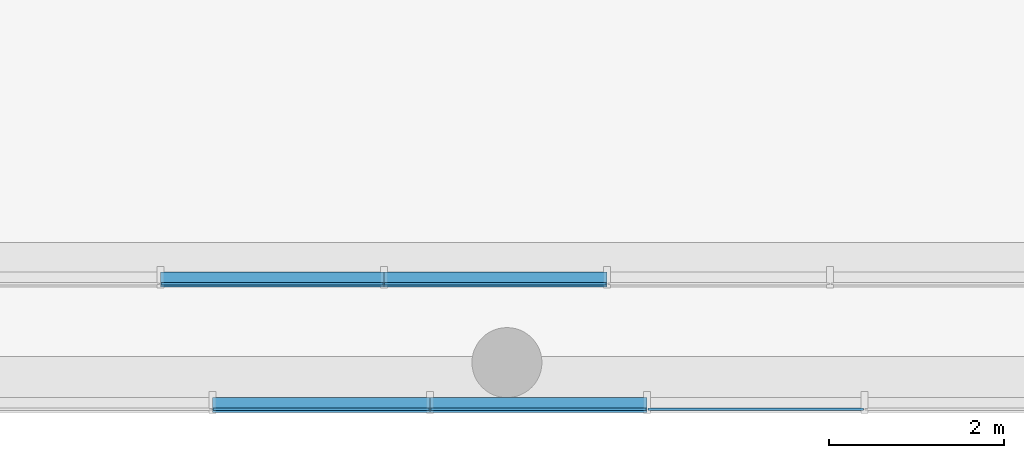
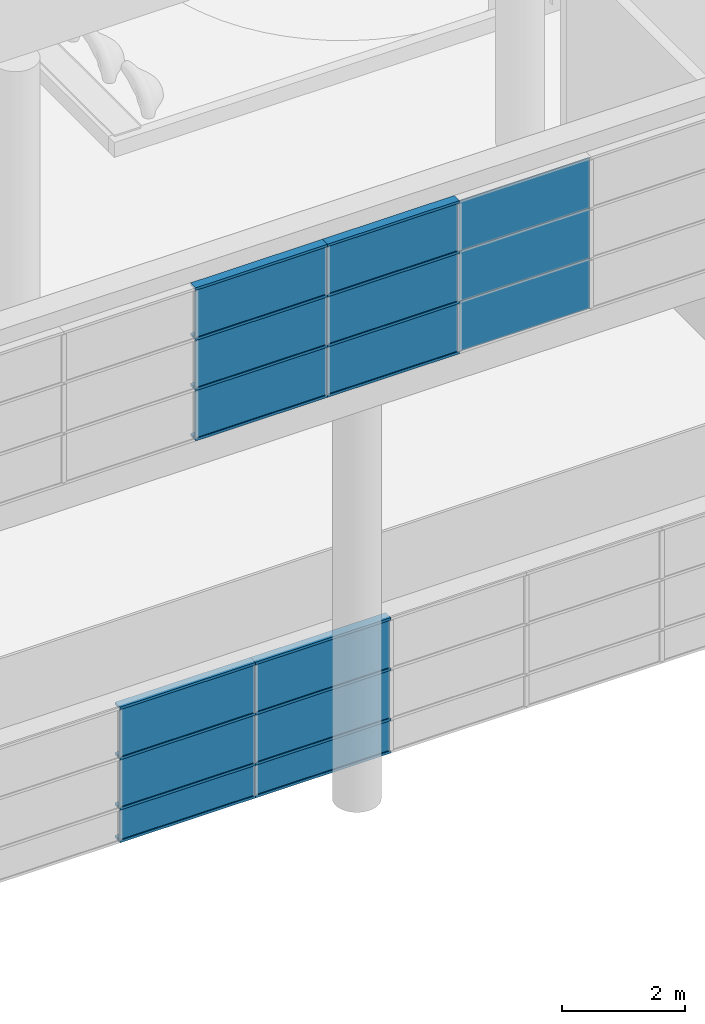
# One storey, part 22 of 105: 31 building element parts, 2 elements without a shape of their own.
"""IFC4 building model written with IfcOpenShell, lengths in millimetres."""

from ifc_helpers import new_model, entity, si_unit, converted_unit, derived_unit, direction, frame, origin_with_axes, place, context, subcontext, project, spatial, triangles, material, element, aggregate, save


model = new_model("IFC4")

# Units and contexts
model_context = context("Model", 3, precision=1e-05, world=origin_with_axes(), true_north=direction((0.0, 1.0)))
body_context = subcontext(model_context, "Body", "Model", "MODEL_VIEW")
ifc_project = project(units=[si_unit("LENGTHUNIT", "METRE", prefix="MILLI"), si_unit("AREAUNIT", "SQUARE_METRE"), si_unit("VOLUMEUNIT", "CUBIC_METRE"), converted_unit("PLANEANGLEUNIT", "DEGREE", entity("IfcLengthMeasure", 0.017453), si_unit("PLANEANGLEUNIT", "RADIAN"), dimensions=[0, 0, 0, 0, 0, 0, 0]), si_unit("SOLIDANGLEUNIT", "STERADIAN"), si_unit("MASSUNIT", "GRAM"), si_unit("TIMEUNIT", "SECOND"), si_unit("THERMODYNAMICTEMPERATUREUNIT", "DEGREE_CELSIUS"), si_unit("LUMINOUSINTENSITYUNIT", "LUMEN"), si_unit("POWERUNIT", "WATT"), derived_unit("THERMALTRANSMITTANCEUNIT", [(si_unit("POWERUNIT", "WATT"), 1), (si_unit("THERMODYNAMICTEMPERATUREUNIT", "KELVIN"), -1), (si_unit("AREAUNIT", "SQUARE_METRE"), -1)])], contexts=[model_context])

# Site, building, storey
site_placement = place(None, origin_with_axes())
site = spatial("IfcSite", under=ifc_project, at=site_placement, Name="Default Site", CompositionType="ELEMENT")
building_placement = place(site_placement, origin_with_axes())
building = spatial("IfcBuilding", under=site, at=building_placement, Name="Default Building", CompositionType="ELEMENT")
storey_placement = place(building_placement, origin_with_axes())
storey = spatial("IfcBuildingStorey", under=building, at=storey_placement, Name="OG - Story", CompositionType="ELEMENT", Elevation=0.0)

# Curtain wall, building element parts
curtain_wall_1_placement = place(storey_placement, origin_with_axes())
curtain_wall_1 = element("IfcCurtainWall", 1, at=curtain_wall_1_placement, inside=storey, Name="Fassade-001", PredefinedType="NOTDEFINED")
ifc_material_1 = material(Name="Normalglas")
building_element_part_1_placement = place(curtain_wall_1_placement, frame((52496.845873, -51289.262838, 0.0), z_axis=(0.0, 0.0, 1.0), x_axis=(1.0, 0.0, 0.0)))
building_element_part_1 = element("IfcBuildingElementPart", 2, at=building_element_part_1_placement, material=ifc_material_1, Name="Normalglas", PredefinedType="NOTDEFINED", context=body_context, shape_type="Tessellation", body=[
    triangles([(6367.273, 15.0, 645.0), (3836.364, 15.0, 645.0), (3836.364, -14.999, 645.0), (6367.273, -14.999, 645.0), (6367.273, 15.0, 5.0), (3836.364, 15.0, 5.0), (3836.364, -14.999, 5.0), (6367.273, -14.999, 5.0)], [[1, 2, 3], [1, 3, 4], [1, 5, 6], [1, 6, 2], [2, 6, 7], [2, 7, 3], [4, 3, 7], [4, 7, 8], [5, 1, 4], [5, 4, 8], [6, 5, 8], [6, 8, 7]], closed=False),
])
building_element_part_2_placement = place(curtain_wall_1_placement, frame((52496.845873, -51289.262838, 0.0), z_axis=(0.0, 0.0, 1.0), x_axis=(1.0, 0.0, 0.0)))
building_element_part_2 = element("IfcBuildingElementPart", 3, at=building_element_part_2_placement, material=ifc_material_1, Name="Normalglas", PredefinedType="NOTDEFINED", context=body_context, shape_type="Tessellation", body=[
    triangles([(8918.182, 15.0, 645.0), (6387.273, 15.0, 645.0), (6387.273, -14.999, 645.0), (8918.182, -14.999, 645.0), (8918.182, 15.0, 5.0), (6387.273, 15.0, 5.0), (6387.273, -14.999, 5.0), (8918.182, -14.999, 5.0)], [[1, 2, 3], [1, 3, 4], [1, 5, 6], [1, 6, 2], [2, 6, 7], [2, 7, 3], [4, 3, 7], [4, 7, 8], [5, 1, 4], [5, 4, 8], [6, 5, 8], [6, 8, 7]], closed=False),
])
building_element_part_3_placement = place(curtain_wall_1_placement, frame((52496.845873, -51289.262838, 0.0), z_axis=(0.0, 0.0, 1.0), x_axis=(1.0, 0.0, 0.0)))
building_element_part_3 = element("IfcBuildingElementPart", 4, at=building_element_part_3_placement, material=ifc_material_1, Name="Normalglas", PredefinedType="NOTDEFINED", context=body_context, shape_type="Tessellation", body=[
    triangles([(6367.273, 15.0, 1645.0), (3836.364, 15.0, 1645.0), (3836.364, -14.999, 1645.0), (6367.273, -14.999, 1645.0), (6367.273, 15.0, 655.0), (3836.364, 15.0, 655.0), (3836.364, -14.999, 655.0), (6367.273, -14.999, 655.0)], [[1, 2, 3], [1, 3, 4], [1, 5, 6], [1, 6, 2], [2, 6, 7], [2, 7, 3], [4, 3, 7], [4, 7, 8], [5, 1, 4], [5, 4, 8], [6, 5, 8], [6, 8, 7]], closed=False),
])
building_element_part_4_placement = place(curtain_wall_1_placement, frame((52496.845873, -51289.262838, 0.0), z_axis=(0.0, 0.0, 1.0), x_axis=(1.0, 0.0, 0.0)))
building_element_part_4 = element("IfcBuildingElementPart", 5, at=building_element_part_4_placement, material=ifc_material_1, Name="Normalglas", PredefinedType="NOTDEFINED", context=body_context, shape_type="Tessellation", body=[
    triangles([(8918.182, 15.0, 1645.0), (6387.273, 15.0, 1645.0), (6387.273, -14.999, 1645.0), (8918.182, -14.999, 1645.0), (8918.182, 15.0, 655.0), (6387.273, 15.0, 655.0), (6387.273, -14.999, 655.0), (8918.182, -14.999, 655.0)], [[1, 2, 3], [1, 3, 4], [1, 5, 6], [1, 6, 2], [2, 6, 7], [2, 7, 3], [4, 3, 7], [4, 7, 8], [5, 1, 4], [5, 4, 8], [6, 5, 8], [6, 8, 7]], closed=False),
])
building_element_part_5_placement = place(curtain_wall_1_placement, frame((52496.845873, -51289.262838, 0.0), z_axis=(0.0, 0.0, 1.0), x_axis=(1.0, 0.0, 0.0)))
building_element_part_5 = element("IfcBuildingElementPart", 6, at=building_element_part_5_placement, material=ifc_material_1, Name="Normalglas", PredefinedType="NOTDEFINED", context=body_context, shape_type="Tessellation", body=[
    triangles([(6367.273, 15.0, 2645.0), (3836.364, 15.0, 2645.0), (3836.364, -14.999, 2645.0), (6367.273, -14.999, 2645.0), (6367.273, 15.0, 1655.0), (3836.364, 15.0, 1655.0), (3836.364, -14.999, 1655.0), (6367.273, -14.999, 1655.0)], [[1, 2, 3], [1, 3, 4], [1, 5, 6], [1, 6, 2], [2, 6, 7], [2, 7, 3], [4, 3, 7], [4, 7, 8], [5, 1, 4], [5, 4, 8], [6, 5, 8], [6, 8, 7]], closed=False),
])
building_element_part_6_placement = place(curtain_wall_1_placement, frame((52496.845873, -51289.262838, 0.0), z_axis=(0.0, 0.0, 1.0), x_axis=(1.0, 0.0, 0.0)))
building_element_part_6 = element("IfcBuildingElementPart", 7, at=building_element_part_6_placement, material=ifc_material_1, Name="Normalglas", PredefinedType="NOTDEFINED", context=body_context, shape_type="Tessellation", body=[
    triangles([(8918.182, 15.0, 2645.0), (6387.273, 15.0, 2645.0), (6387.273, -14.999, 2645.0), (8918.182, -14.999, 2645.0), (8918.182, 15.0, 1655.0), (6387.273, 15.0, 1655.0), (6387.273, -14.999, 1655.0), (8918.182, -14.999, 1655.0)], [[1, 2, 3], [1, 3, 4], [1, 5, 6], [1, 6, 2], [2, 6, 7], [2, 7, 3], [4, 3, 7], [4, 7, 8], [5, 1, 4], [5, 4, 8], [6, 5, 8], [6, 8, 7]], closed=False),
])
ifc_material_2 = material(Name="Blech")
building_element_part_7_placement = place(curtain_wall_1_placement, frame((52496.845873, -51289.262838, 0.0), z_axis=(0.0, 0.0, 1.0), x_axis=(1.0, 0.0, 0.0)))
building_element_part_7 = element("IfcBuildingElementPart", 8, at=building_element_part_7_placement, material=ifc_material_2, Name="Blech", PredefinedType="NOTDEFINED", context=body_context, shape_type="Tessellation", body=[
    triangles([(6377.273, 15.0, 25.0), (6377.273, 133.0, 25.0), (6377.273, 15.0, 5.0), (6377.273, 133.0, -24.999), (6377.273, -14.999, 5.0), (6377.273, -34.999, -24.999), (6377.273, -14.999, 25.0), (6377.273, -34.999, 25.0), (3826.364, 15.0, 5.0), (3826.364, -14.999, 5.0), (3826.364, -14.999, 25.0), (3826.364, -34.999, 25.0), (3826.364, -34.999, -24.999), (3826.364, 133.0, -24.999), (3826.364, 133.0, 25.0), (3826.364, 15.0, 25.0)], [[1, 2, 3], [3, 2, 4], [3, 4, 5], [5, 4, 6], [5, 6, 7], [7, 6, 8], [5, 3, 9], [5, 9, 10], [11, 7, 5], [11, 5, 10], [7, 11, 12], [7, 12, 8], [13, 6, 8], [13, 8, 12], [14, 4, 6], [14, 6, 13], [15, 2, 4], [15, 4, 14], [16, 1, 2], [16, 2, 15], [3, 1, 16], [3, 16, 9], [16, 15, 9], [9, 15, 14], [9, 14, 10], [10, 14, 13], [10, 13, 11], [11, 13, 12]], closed=False),
])
building_element_part_8_placement = place(curtain_wall_1_placement, frame((52496.845873, -51289.262838, 0.0), z_axis=(0.0, 0.0, 1.0), x_axis=(1.0, 0.0, 0.0)))
building_element_part_8 = element("IfcBuildingElementPart", 9, at=building_element_part_8_placement, material=ifc_material_2, Name="Blech", PredefinedType="NOTDEFINED", context=body_context, shape_type="Tessellation", body=[
    triangles([(8928.182, 15.0, 25.0), (8928.182, 133.0, 25.0), (8928.182, 15.0, 5.0), (8928.182, 133.0, -24.999), (8928.182, -14.999, 5.0), (8928.182, -34.999, -24.999), (8928.182, -14.999, 25.0), (8928.182, -34.999, 25.0), (6377.273, 15.0, 5.0), (6377.273, -14.999, 5.0), (6377.273, -14.999, 25.0), (6377.273, -34.999, 25.0), (6377.273, -34.999, -24.999), (6377.273, 133.0, -24.999), (6377.273, 133.0, 25.0), (6377.273, 15.0, 25.0)], [[1, 2, 3], [3, 2, 4], [3, 4, 5], [5, 4, 6], [5, 6, 7], [7, 6, 8], [5, 3, 9], [5, 9, 10], [11, 7, 5], [11, 5, 10], [7, 11, 12], [7, 12, 8], [13, 6, 8], [13, 8, 12], [14, 4, 6], [14, 6, 13], [15, 2, 4], [15, 4, 14], [16, 1, 2], [16, 2, 15], [3, 1, 16], [3, 16, 9], [16, 15, 9], [9, 15, 14], [9, 14, 10], [10, 14, 13], [10, 13, 11], [11, 13, 12]], closed=False),
])
building_element_part_9_placement = place(curtain_wall_1_placement, frame((52496.845873, -51289.262838, 0.0), z_axis=(0.0, 0.0, 1.0), x_axis=(1.0, 0.0, 0.0)))
building_element_part_9 = element("IfcBuildingElementPart", 10, at=building_element_part_9_placement, material=ifc_material_2, Name="Blech", PredefinedType="NOTDEFINED", context=body_context, shape_type="Tessellation", body=[
    triangles([(6377.273, 133.0, 675.0), (6377.273, 15.0, 675.0), (6377.273, 133.0, 625.0), (6377.273, 15.0, 655.0), (6377.273, 15.0, 645.0), (6377.273, -14.999, 655.0), (6377.273, -14.999, 645.0), (6377.273, -14.999, 625.0), (6377.273, -14.999, 675.0), (6377.273, -34.999, 675.0), (6377.273, -34.999, 625.0), (6377.273, 15.0, 625.0), (3826.364, 15.0, 645.0), (3826.364, 15.0, 625.0), (3826.364, 133.0, 625.0), (3826.364, 133.0, 675.0), (3826.364, 15.0, 675.0), (3826.364, 15.0, 655.0), (3826.364, -14.999, 655.0), (3826.364, -14.999, 675.0), (3826.364, -34.999, 675.0), (3826.364, -34.999, 625.0), (3826.364, -14.999, 625.0), (3826.364, -14.999, 645.0)], [[1, 2, 3], [3, 2, 4], [3, 4, 5], [5, 4, 6], [5, 6, 7], [8, 9, 10], [8, 10, 11], [3, 5, 12], [12, 5, 13], [12, 13, 14], [12, 14, 15], [12, 15, 3], [1, 3, 15], [1, 15, 16], [2, 1, 16], [2, 16, 17], [2, 17, 18], [2, 18, 4], [4, 18, 19], [4, 19, 6], [9, 6, 19], [9, 19, 20], [20, 21, 10], [20, 10, 9], [11, 10, 21], [11, 21, 22], [23, 8, 11], [23, 11, 22], [7, 8, 23], [7, 23, 24], [5, 7, 24], [5, 24, 13], [15, 14, 16], [16, 14, 13], [16, 13, 18], [18, 13, 24], [18, 24, 19], [20, 23, 22], [20, 22, 21], [16, 18, 17]], closed=False),
])
building_element_part_10_placement = place(curtain_wall_1_placement, frame((52496.845873, -51289.262838, 0.0), z_axis=(0.0, 0.0, 1.0), x_axis=(1.0, 0.0, 0.0)))
building_element_part_10 = element("IfcBuildingElementPart", 11, at=building_element_part_10_placement, material=ifc_material_2, Name="Blech", PredefinedType="NOTDEFINED", context=body_context, shape_type="Tessellation", body=[
    triangles([(8928.182, 133.0, 675.0), (8928.182, 15.0, 675.0), (8928.182, 133.0, 625.0), (8928.182, 15.0, 655.0), (8928.182, 15.0, 645.0), (8928.182, -14.999, 655.0), (8928.182, -14.999, 645.0), (8928.182, -14.999, 625.0), (8928.182, -14.999, 675.0), (8928.182, -34.999, 675.0), (8928.182, -34.999, 625.0), (8928.182, 15.0, 625.0), (6377.273, 15.0, 645.0), (6377.273, 15.0, 625.0), (6377.273, 133.0, 625.0), (6377.273, 133.0, 675.0), (6377.273, 15.0, 675.0), (6377.273, 15.0, 655.0), (6377.273, -14.999, 655.0), (6377.273, -14.999, 675.0), (6377.273, -34.999, 675.0), (6377.273, -34.999, 625.0), (6377.273, -14.999, 625.0), (6377.273, -14.999, 645.0)], [[1, 2, 3], [3, 2, 4], [3, 4, 5], [5, 4, 6], [5, 6, 7], [8, 9, 10], [8, 10, 11], [3, 5, 12], [12, 5, 13], [12, 13, 14], [12, 14, 15], [12, 15, 3], [1, 3, 15], [1, 15, 16], [2, 1, 16], [2, 16, 17], [2, 17, 18], [2, 18, 4], [4, 18, 19], [4, 19, 6], [9, 6, 19], [9, 19, 20], [20, 21, 10], [20, 10, 9], [11, 10, 21], [11, 21, 22], [23, 8, 11], [23, 11, 22], [7, 8, 23], [7, 23, 24], [5, 7, 24], [5, 24, 13], [15, 14, 16], [16, 14, 13], [16, 13, 18], [18, 13, 24], [18, 24, 19], [20, 23, 22], [20, 22, 21], [16, 18, 17]], closed=False),
])
building_element_part_11_placement = place(curtain_wall_1_placement, frame((52496.845873, -51289.262838, 0.0), z_axis=(0.0, 0.0, 1.0), x_axis=(1.0, 0.0, 0.0)))
building_element_part_11 = element("IfcBuildingElementPart", 12, at=building_element_part_11_placement, material=ifc_material_2, Name="Blech", PredefinedType="NOTDEFINED", context=body_context, shape_type="Tessellation", body=[
    triangles([(6377.273, 133.0, 1675.0), (6377.273, 15.0, 1675.0), (6377.273, 133.0, 1625.0), (6377.273, 15.0, 1655.0), (6377.273, 15.0, 1645.0), (6377.273, -14.999, 1655.0), (6377.273, -14.999, 1645.0), (6377.273, -14.999, 1625.0), (6377.273, -14.999, 1675.0), (6377.273, -34.999, 1675.0), (6377.273, -34.999, 1625.0), (6377.273, 15.0, 1625.0), (3826.364, 15.0, 1645.0), (3826.364, 15.0, 1625.0), (3826.364, 133.0, 1625.0), (3826.364, 133.0, 1675.0), (3826.364, 15.0, 1675.0), (3826.364, 15.0, 1655.0), (3826.364, -14.999, 1655.0), (3826.364, -14.999, 1675.0), (3826.364, -34.999, 1675.0), (3826.364, -34.999, 1625.0), (3826.364, -14.999, 1625.0), (3826.364, -14.999, 1645.0)], [[1, 2, 3], [3, 2, 4], [3, 4, 5], [5, 4, 6], [5, 6, 7], [8, 9, 10], [8, 10, 11], [3, 5, 12], [12, 5, 13], [12, 13, 14], [12, 14, 15], [12, 15, 3], [1, 3, 15], [1, 15, 16], [2, 1, 16], [2, 16, 17], [2, 17, 18], [2, 18, 4], [4, 18, 19], [4, 19, 6], [9, 6, 19], [9, 19, 20], [20, 21, 10], [20, 10, 9], [11, 10, 21], [11, 21, 22], [23, 8, 11], [23, 11, 22], [7, 8, 23], [7, 23, 24], [5, 7, 24], [5, 24, 13], [15, 14, 16], [16, 14, 13], [16, 13, 18], [18, 13, 24], [18, 24, 19], [20, 23, 22], [20, 22, 21], [16, 18, 17]], closed=False),
])
building_element_part_12_placement = place(curtain_wall_1_placement, frame((52496.845873, -51289.262838, 0.0), z_axis=(0.0, 0.0, 1.0), x_axis=(1.0, 0.0, 0.0)))
building_element_part_12 = element("IfcBuildingElementPart", 13, at=building_element_part_12_placement, material=ifc_material_2, Name="Blech", PredefinedType="NOTDEFINED", context=body_context, shape_type="Tessellation", body=[
    triangles([(6377.273, 15.0, 2625.0), (6377.273, 133.0, 2625.0), (6377.273, 15.0, 2645.0), (6377.273, 133.0, 2675.0), (6377.273, -14.999, 2645.0), (6377.273, -34.999, 2675.0), (6377.273, -14.999, 2625.0), (6377.273, -34.999, 2625.0), (3826.364, 15.0, 2645.0), (3826.364, 15.0, 2625.0), (3826.364, 133.0, 2625.0), (3826.364, 133.0, 2675.0), (3826.364, -34.999, 2675.0), (3826.364, -34.999, 2625.0), (3826.364, -14.999, 2625.0), (3826.364, -14.999, 2645.0)], [[1, 2, 3], [3, 2, 4], [3, 4, 5], [5, 4, 6], [5, 6, 7], [7, 6, 8], [3, 9, 10], [3, 10, 1], [10, 11, 2], [10, 2, 1], [11, 12, 4], [11, 4, 2], [12, 13, 6], [12, 6, 4], [13, 14, 8], [13, 8, 6], [7, 8, 14], [7, 14, 15], [15, 16, 5], [15, 5, 7], [5, 16, 9], [5, 9, 3], [10, 11, 9], [9, 11, 12], [9, 12, 16], [16, 12, 13], [16, 13, 15], [15, 13, 14]], closed=False),
])
building_element_part_13_placement = place(curtain_wall_1_placement, frame((52496.845873, -51289.262838, 0.0), z_axis=(0.0, 0.0, 1.0), x_axis=(1.0, 0.0, 0.0)))
building_element_part_13 = element("IfcBuildingElementPart", 14, at=building_element_part_13_placement, material=ifc_material_2, Name="Blech", PredefinedType="NOTDEFINED", context=body_context, shape_type="Tessellation", body=[
    triangles([(8928.182, 133.0, 1675.0), (8928.182, 15.0, 1675.0), (8928.182, 133.0, 1625.0), (8928.182, 15.0, 1655.0), (8928.182, 15.0, 1645.0), (8928.182, -14.999, 1655.0), (8928.182, -14.999, 1645.0), (8928.182, -14.999, 1625.0), (8928.182, -14.999, 1675.0), (8928.182, -34.999, 1675.0), (8928.182, -34.999, 1625.0), (8928.182, 15.0, 1625.0), (6377.273, 15.0, 1645.0), (6377.273, 15.0, 1625.0), (6377.273, 133.0, 1625.0), (6377.273, 133.0, 1675.0), (6377.273, 15.0, 1675.0), (6377.273, 15.0, 1655.0), (6377.273, -14.999, 1655.0), (6377.273, -14.999, 1675.0), (6377.273, -34.999, 1675.0), (6377.273, -34.999, 1625.0), (6377.273, -14.999, 1625.0), (6377.273, -14.999, 1645.0)], [[1, 2, 3], [3, 2, 4], [3, 4, 5], [5, 4, 6], [5, 6, 7], [8, 9, 10], [8, 10, 11], [3, 5, 12], [12, 5, 13], [12, 13, 14], [12, 14, 15], [12, 15, 3], [1, 3, 15], [1, 15, 16], [2, 1, 16], [2, 16, 17], [2, 17, 18], [2, 18, 4], [4, 18, 19], [4, 19, 6], [9, 6, 19], [9, 19, 20], [20, 21, 10], [20, 10, 9], [11, 10, 21], [11, 21, 22], [23, 8, 11], [23, 11, 22], [7, 8, 23], [7, 23, 24], [5, 7, 24], [5, 24, 13], [15, 14, 16], [16, 14, 13], [16, 13, 18], [18, 13, 24], [18, 24, 19], [20, 23, 22], [20, 22, 21], [16, 18, 17]], closed=False),
])
building_element_part_14_placement = place(curtain_wall_1_placement, frame((52496.845873, -51289.262838, 0.0), z_axis=(0.0, 0.0, 1.0), x_axis=(1.0, 0.0, 0.0)))
building_element_part_14 = element("IfcBuildingElementPart", 15, at=building_element_part_14_placement, material=ifc_material_2, Name="Blech", PredefinedType="NOTDEFINED", context=body_context, shape_type="Tessellation", body=[
    triangles([(8928.182, 15.0, 2625.0), (8928.182, 133.0, 2625.0), (8928.182, 15.0, 2645.0), (8928.182, 133.0, 2675.0), (8928.182, -14.999, 2645.0), (8928.182, -34.999, 2675.0), (8928.182, -14.999, 2625.0), (8928.182, -34.999, 2625.0), (6377.273, 15.0, 2645.0), (6377.273, 15.0, 2625.0), (6377.273, 133.0, 2625.0), (6377.273, 133.0, 2675.0), (6377.273, -34.999, 2675.0), (6377.273, -34.999, 2625.0), (6377.273, -14.999, 2625.0), (6377.273, -14.999, 2645.0)], [[1, 2, 3], [3, 2, 4], [3, 4, 5], [5, 4, 6], [5, 6, 7], [7, 6, 8], [3, 9, 10], [3, 10, 1], [10, 11, 2], [10, 2, 1], [11, 12, 4], [11, 4, 2], [12, 13, 6], [12, 6, 4], [13, 14, 8], [13, 8, 6], [7, 8, 14], [7, 14, 15], [15, 16, 5], [15, 5, 7], [5, 16, 9], [5, 9, 3], [10, 11, 9], [9, 11, 12], [9, 12, 16], [16, 12, 13], [16, 13, 15], [15, 13, 14]], closed=False),
])
aggregate(curtain_wall_1, [building_element_part_1, building_element_part_2, building_element_part_3, building_element_part_4, building_element_part_5, building_element_part_6, building_element_part_7, building_element_part_8, building_element_part_9, building_element_part_10, building_element_part_11, building_element_part_12, building_element_part_13, building_element_part_14])

curtain_wall_2_placement = place(storey_placement, origin_with_axes())
curtain_wall_2 = element("IfcCurtainWall", 16, at=curtain_wall_2_placement, inside=storey, Name="Fassade-002", PredefinedType="NOTDEFINED")
building_element_part_15_placement = place(curtain_wall_2_placement, frame((33339.077852, -52722.262838, 8660.317768), z_axis=(0.0, 0.0, 1.0), x_axis=(1.0, 0.0, 0.0)))
building_element_part_15 = element("IfcBuildingElementPart", 17, at=building_element_part_15_placement, material=ifc_material_1, Name="Normalglas", PredefinedType="NOTDEFINED", context=body_context, shape_type="Tessellation", body=[
    triangles([(26051.975, 15.0, 995.0), (23589.882, 15.0, 995.0), (23589.882, -14.999, 995.0), (26051.975, -14.999, 995.0), (26051.975, 15.0, 5.0), (23589.882, 15.0, 5.0), (23589.882, -14.999, 5.0), (26051.975, -14.999, 5.0)], [[1, 2, 3], [1, 3, 4], [1, 5, 6], [1, 6, 2], [2, 6, 7], [2, 7, 3], [4, 3, 7], [4, 7, 8], [5, 1, 4], [5, 4, 8], [6, 5, 8], [6, 8, 7]], closed=False),
])
building_element_part_16_placement = place(curtain_wall_2_placement, frame((33339.077852, -52722.262838, 8660.317768), z_axis=(0.0, 0.0, 1.0), x_axis=(1.0, 0.0, 0.0)))
building_element_part_16 = element("IfcBuildingElementPart", 18, at=building_element_part_16_placement, material=ifc_material_1, Name="Normalglas", PredefinedType="NOTDEFINED", context=body_context, shape_type="Tessellation", body=[
    triangles([(26051.975, 15.0, 1995.0), (23589.882, 15.0, 1995.0), (23589.882, -14.999, 1995.0), (26051.975, -14.999, 1995.0), (26051.975, 15.0, 1005.0), (23589.882, 15.0, 1005.0), (23589.882, -14.999, 1005.0), (26051.975, -14.999, 1005.0)], [[1, 2, 3], [1, 3, 4], [1, 5, 6], [1, 6, 2], [2, 6, 7], [2, 7, 3], [4, 3, 7], [4, 7, 8], [5, 1, 4], [5, 4, 8], [6, 5, 8], [6, 8, 7]], closed=False),
])
building_element_part_17_placement = place(curtain_wall_2_placement, frame((33339.077852, -52722.262838, 8660.317768), z_axis=(0.0, 0.0, 1.0), x_axis=(1.0, 0.0, 0.0)))
building_element_part_17 = element("IfcBuildingElementPart", 19, at=building_element_part_17_placement, material=ifc_material_1, Name="Normalglas", PredefinedType="NOTDEFINED", context=body_context, shape_type="Tessellation", body=[
    triangles([(26051.975, 15.0, 2995.0), (23589.882, 15.0, 2995.0), (23589.882, -14.999, 2995.0), (26051.975, -14.999, 2995.0), (26051.975, 15.0, 2005.0), (23589.882, 15.0, 2005.0), (23589.882, -14.999, 2005.0), (26051.975, -14.999, 2005.0)], [[1, 2, 3], [1, 3, 4], [1, 5, 6], [1, 6, 2], [2, 6, 7], [2, 7, 3], [4, 3, 7], [4, 7, 8], [5, 1, 4], [5, 4, 8], [6, 5, 8], [6, 8, 7]], closed=False),
])
building_element_part_18_placement = place(curtain_wall_2_placement, frame((33339.077852, -52722.262838, 8660.317768), z_axis=(0.0, 0.0, 1.0), x_axis=(1.0, 0.0, 0.0)))
building_element_part_18 = element("IfcBuildingElementPart", 20, at=building_element_part_18_placement, material=ifc_material_1, Name="Normalglas", PredefinedType="NOTDEFINED", context=body_context, shape_type="Tessellation", body=[
    triangles([(28534.068, 15.0, 995.0), (26071.975, 15.0, 995.0), (26071.975, -14.999, 995.0), (28534.068, -14.999, 995.0), (28534.068, 15.0, 5.0), (26071.975, 15.0, 5.0), (26071.975, -14.999, 5.0), (28534.068, -14.999, 5.0)], [[1, 2, 3], [1, 3, 4], [1, 5, 6], [1, 6, 2], [2, 6, 7], [2, 7, 3], [4, 3, 7], [4, 7, 8], [5, 1, 4], [5, 4, 8], [6, 5, 8], [6, 8, 7]], closed=False),
])
building_element_part_19_placement = place(curtain_wall_2_placement, frame((33339.077852, -52722.262838, 8660.317768), z_axis=(0.0, 0.0, 1.0), x_axis=(1.0, 0.0, 0.0)))
building_element_part_19 = element("IfcBuildingElementPart", 21, at=building_element_part_19_placement, material=ifc_material_1, Name="Normalglas", PredefinedType="NOTDEFINED", context=body_context, shape_type="Tessellation", body=[
    triangles([(28534.068, 15.0, 1995.0), (26071.975, 15.0, 1995.0), (26071.975, -14.999, 1995.0), (28534.068, -14.999, 1995.0), (28534.068, 15.0, 1005.0), (26071.975, 15.0, 1005.0), (26071.975, -14.999, 1005.0), (28534.068, -14.999, 1005.0)], [[1, 2, 3], [1, 3, 4], [1, 5, 6], [1, 6, 2], [2, 6, 7], [2, 7, 3], [4, 3, 7], [4, 7, 8], [5, 1, 4], [5, 4, 8], [6, 5, 8], [6, 8, 7]], closed=False),
])
building_element_part_20_placement = place(curtain_wall_2_placement, frame((33339.077852, -52722.262838, 8660.317768), z_axis=(0.0, 0.0, 1.0), x_axis=(1.0, 0.0, 0.0)))
building_element_part_20 = element("IfcBuildingElementPart", 22, at=building_element_part_20_placement, material=ifc_material_1, Name="Normalglas", PredefinedType="NOTDEFINED", context=body_context, shape_type="Tessellation", body=[
    triangles([(28534.068, 15.0, 2995.0), (26071.975, 15.0, 2995.0), (26071.975, -14.999, 2995.0), (28534.068, -14.999, 2995.0), (28534.068, 15.0, 2005.0), (26071.975, 15.0, 2005.0), (26071.975, -14.999, 2005.0), (28534.068, -14.999, 2005.0)], [[1, 2, 3], [1, 3, 4], [1, 5, 6], [1, 6, 2], [2, 6, 7], [2, 7, 3], [4, 3, 7], [4, 7, 8], [5, 1, 4], [5, 4, 8], [6, 5, 8], [6, 8, 7]], closed=False),
])
building_element_part_21_placement = place(curtain_wall_2_placement, frame((33339.077852, -52722.262838, 8660.317768), z_axis=(0.0, 0.0, 1.0), x_axis=(1.0, 0.0, 0.0)))
building_element_part_21 = element("IfcBuildingElementPart", 23, at=building_element_part_21_placement, material=ifc_material_1, Name="Normalglas", PredefinedType="NOTDEFINED", context=body_context, shape_type="Tessellation", body=[
    triangles([(31016.161, 15.0, 995.0), (28554.068, 15.0, 995.0), (28554.068, -14.999, 995.0), (31016.161, -14.999, 995.0), (31016.161, 15.0, 5.0), (28554.068, 15.0, 5.0), (28554.068, -14.999, 5.0), (31016.161, -14.999, 5.0)], [[1, 2, 3], [1, 3, 4], [1, 5, 6], [1, 6, 2], [2, 6, 7], [2, 7, 3], [4, 3, 7], [4, 7, 8], [5, 1, 4], [5, 4, 8], [6, 5, 8], [6, 8, 7]], closed=False),
])
building_element_part_22_placement = place(curtain_wall_2_placement, frame((33339.077852, -52722.262838, 8660.317768), z_axis=(0.0, 0.0, 1.0), x_axis=(1.0, 0.0, 0.0)))
building_element_part_22 = element("IfcBuildingElementPart", 24, at=building_element_part_22_placement, material=ifc_material_1, Name="Normalglas", PredefinedType="NOTDEFINED", context=body_context, shape_type="Tessellation", body=[
    triangles([(31016.161, 15.0, 1995.0), (28554.068, 15.0, 1995.0), (28554.068, -14.999, 1995.0), (31016.161, -14.999, 1995.0), (31016.161, 15.0, 1005.0), (28554.068, 15.0, 1005.0), (28554.068, -14.999, 1005.0), (31016.161, -14.999, 1005.0)], [[1, 2, 3], [1, 3, 4], [1, 5, 6], [1, 6, 2], [2, 6, 7], [2, 7, 3], [4, 3, 7], [4, 7, 8], [5, 1, 4], [5, 4, 8], [6, 5, 8], [6, 8, 7]], closed=False),
])
building_element_part_23_placement = place(curtain_wall_2_placement, frame((33339.077852, -52722.262838, 8660.317768), z_axis=(0.0, 0.0, 1.0), x_axis=(1.0, 0.0, 0.0)))
building_element_part_23 = element("IfcBuildingElementPart", 25, at=building_element_part_23_placement, material=ifc_material_1, Name="Normalglas", PredefinedType="NOTDEFINED", context=body_context, shape_type="Tessellation", body=[
    triangles([(31016.161, 15.0, 2995.0), (28554.068, 15.0, 2995.0), (28554.068, -14.999, 2995.0), (31016.161, -14.999, 2995.0), (31016.161, 15.0, 2005.0), (28554.068, 15.0, 2005.0), (28554.068, -14.999, 2005.0), (31016.161, -14.999, 2005.0)], [[1, 2, 3], [1, 3, 4], [1, 5, 6], [1, 6, 2], [2, 6, 7], [2, 7, 3], [4, 3, 7], [4, 7, 8], [5, 1, 4], [5, 4, 8], [6, 5, 8], [6, 8, 7]], closed=False),
])
building_element_part_24_placement = place(curtain_wall_2_placement, frame((33339.077852, -52722.262838, 8660.317768), z_axis=(0.0, 0.0, 1.0), x_axis=(1.0, 0.0, 0.0)))
building_element_part_24 = element("IfcBuildingElementPart", 26, at=building_element_part_24_placement, material=ifc_material_2, Name="Blech", PredefinedType="NOTDEFINED", context=body_context, shape_type="Tessellation", body=[
    triangles([(26061.975, 15.0, 25.0), (26061.975, 133.0, 25.0), (26061.975, 15.0, 5.0), (26061.975, 133.0, -24.999), (26061.975, -14.999, 5.0), (26061.975, -34.999, -24.999), (26061.975, -14.999, 25.0), (26061.975, -34.999, 25.0), (23579.882, 15.0, 5.0), (23579.882, -14.999, 5.0), (23579.882, -14.999, 25.0), (23579.882, -34.999, 25.0), (23579.882, -34.999, -24.999), (23579.882, 133.0, -24.999), (23579.882, 133.0, 25.0), (23579.882, 15.0, 25.0)], [[1, 2, 3], [3, 2, 4], [3, 4, 5], [5, 4, 6], [5, 6, 7], [7, 6, 8], [5, 3, 9], [5, 9, 10], [11, 7, 5], [11, 5, 10], [7, 11, 12], [7, 12, 8], [13, 6, 8], [13, 8, 12], [14, 4, 6], [14, 6, 13], [15, 2, 4], [15, 4, 14], [16, 1, 2], [16, 2, 15], [3, 1, 16], [3, 16, 9], [16, 15, 9], [9, 15, 14], [9, 14, 10], [10, 14, 13], [10, 13, 11], [11, 13, 12]], closed=False),
])
building_element_part_25_placement = place(curtain_wall_2_placement, frame((33339.077852, -52722.262838, 8660.317768), z_axis=(0.0, 0.0, 1.0), x_axis=(1.0, 0.0, 0.0)))
building_element_part_25 = element("IfcBuildingElementPart", 27, at=building_element_part_25_placement, material=ifc_material_2, Name="Blech", PredefinedType="NOTDEFINED", context=body_context, shape_type="Tessellation", body=[
    triangles([(28544.068, 15.0, 25.0), (28544.068, 133.0, 25.0), (28544.068, 15.0, 5.0), (28544.068, 133.0, -24.999), (28544.068, -14.999, 5.0), (28544.068, -34.999, -24.999), (28544.068, -14.999, 25.0), (28544.068, -34.999, 25.0), (26061.975, 15.0, 5.0), (26061.975, -14.999, 5.0), (26061.975, -14.999, 25.0), (26061.975, -34.999, 25.0), (26061.975, -34.999, -24.999), (26061.975, 133.0, -24.999), (26061.975, 133.0, 25.0), (26061.975, 15.0, 25.0)], [[1, 2, 3], [3, 2, 4], [3, 4, 5], [5, 4, 6], [5, 6, 7], [7, 6, 8], [5, 3, 9], [5, 9, 10], [11, 7, 5], [11, 5, 10], [7, 11, 12], [7, 12, 8], [13, 6, 8], [13, 8, 12], [14, 4, 6], [14, 6, 13], [15, 2, 4], [15, 4, 14], [16, 1, 2], [16, 2, 15], [3, 1, 16], [3, 16, 9], [16, 15, 9], [9, 15, 14], [9, 14, 10], [10, 14, 13], [10, 13, 11], [11, 13, 12]], closed=False),
])
building_element_part_26_placement = place(curtain_wall_2_placement, frame((33339.077852, -52722.262838, 8660.317768), z_axis=(0.0, 0.0, 1.0), x_axis=(1.0, 0.0, 0.0)))
building_element_part_26 = element("IfcBuildingElementPart", 28, at=building_element_part_26_placement, material=ifc_material_2, Name="Blech", PredefinedType="NOTDEFINED", context=body_context, shape_type="Tessellation", body=[
    triangles([(26061.975, 133.0, 1025.0), (26061.975, 15.0, 1025.0), (26061.975, 133.0, 975.0), (26061.975, 15.0, 1005.0), (26061.975, 15.0, 995.0), (26061.975, -14.999, 1005.0), (26061.975, -14.999, 995.0), (26061.975, -14.999, 975.0), (26061.975, -14.999, 1025.0), (26061.975, -34.999, 1025.0), (26061.975, -34.999, 975.0), (26061.975, 15.0, 975.0), (23579.882, 15.0, 995.0), (23579.882, 15.0, 975.0), (23579.882, 133.0, 975.0), (23579.882, 133.0, 1025.0), (23579.882, 15.0, 1025.0), (23579.882, 15.0, 1005.0), (23579.882, -14.999, 1005.0), (23579.882, -14.999, 1025.0), (23579.882, -34.999, 1025.0), (23579.882, -34.999, 975.0), (23579.882, -14.999, 975.0), (23579.882, -14.999, 995.0)], [[1, 2, 3], [3, 2, 4], [3, 4, 5], [5, 4, 6], [5, 6, 7], [8, 9, 10], [8, 10, 11], [3, 5, 12], [12, 5, 13], [12, 13, 14], [12, 14, 15], [12, 15, 3], [1, 3, 15], [1, 15, 16], [2, 1, 16], [2, 16, 17], [2, 17, 18], [2, 18, 4], [4, 18, 19], [4, 19, 6], [9, 6, 19], [9, 19, 20], [20, 21, 10], [20, 10, 9], [11, 10, 21], [11, 21, 22], [23, 8, 11], [23, 11, 22], [7, 8, 23], [7, 23, 24], [5, 7, 24], [5, 24, 13], [15, 14, 16], [16, 14, 13], [16, 13, 18], [18, 13, 24], [18, 24, 19], [20, 23, 22], [20, 22, 21], [16, 18, 17]], closed=False),
])
building_element_part_27_placement = place(curtain_wall_2_placement, frame((33339.077852, -52722.262838, 8660.317768), z_axis=(0.0, 0.0, 1.0), x_axis=(1.0, 0.0, 0.0)))
building_element_part_27 = element("IfcBuildingElementPart", 29, at=building_element_part_27_placement, material=ifc_material_2, Name="Blech", PredefinedType="NOTDEFINED", context=body_context, shape_type="Tessellation", body=[
    triangles([(28544.068, 133.0, 1025.0), (28544.068, 15.0, 1025.0), (28544.068, 133.0, 975.0), (28544.068, 15.0, 1005.0), (28544.068, 15.0, 995.0), (28544.068, -14.999, 1005.0), (28544.068, -14.999, 995.0), (28544.068, -14.999, 975.0), (28544.068, -14.999, 1025.0), (28544.068, -34.999, 1025.0), (28544.068, -34.999, 975.0), (28544.068, 15.0, 975.0), (26061.975, 15.0, 995.0), (26061.975, 15.0, 975.0), (26061.975, 133.0, 975.0), (26061.975, 133.0, 1025.0), (26061.975, 15.0, 1025.0), (26061.975, 15.0, 1005.0), (26061.975, -14.999, 1005.0), (26061.975, -14.999, 1025.0), (26061.975, -34.999, 1025.0), (26061.975, -34.999, 975.0), (26061.975, -14.999, 975.0), (26061.975, -14.999, 995.0)], [[1, 2, 3], [3, 2, 4], [3, 4, 5], [5, 4, 6], [5, 6, 7], [8, 9, 10], [8, 10, 11], [3, 5, 12], [12, 5, 13], [12, 13, 14], [12, 14, 15], [12, 15, 3], [1, 3, 15], [1, 15, 16], [2, 1, 16], [2, 16, 17], [2, 17, 18], [2, 18, 4], [4, 18, 19], [4, 19, 6], [9, 6, 19], [9, 19, 20], [20, 21, 10], [20, 10, 9], [11, 10, 21], [11, 21, 22], [23, 8, 11], [23, 11, 22], [7, 8, 23], [7, 23, 24], [5, 7, 24], [5, 24, 13], [15, 14, 16], [16, 14, 13], [16, 13, 18], [18, 13, 24], [18, 24, 19], [20, 23, 22], [20, 22, 21], [16, 18, 17]], closed=False),
])
building_element_part_28_placement = place(curtain_wall_2_placement, frame((33339.077852, -52722.262838, 8660.317768), z_axis=(0.0, 0.0, 1.0), x_axis=(1.0, 0.0, 0.0)))
building_element_part_28 = element("IfcBuildingElementPart", 30, at=building_element_part_28_placement, material=ifc_material_2, Name="Blech", PredefinedType="NOTDEFINED", context=body_context, shape_type="Tessellation", body=[
    triangles([(26061.975, 133.0, 2025.0), (26061.975, 15.0, 2025.0), (26061.975, 133.0, 1975.0), (26061.975, 15.0, 2005.0), (26061.975, 15.0, 1995.0), (26061.975, -14.999, 2005.0), (26061.975, -14.999, 1995.0), (26061.975, -14.999, 1975.0), (26061.975, -14.999, 2025.0), (26061.975, -34.999, 2025.0), (26061.975, -34.999, 1975.0), (26061.975, 15.0, 1975.0), (23579.882, 15.0, 1995.0), (23579.882, 15.0, 1975.0), (23579.882, 133.0, 1975.0), (23579.882, 133.0, 2025.0), (23579.882, 15.0, 2025.0), (23579.882, 15.0, 2005.0), (23579.882, -14.999, 2005.0), (23579.882, -14.999, 2025.0), (23579.882, -34.999, 2025.0), (23579.882, -34.999, 1975.0), (23579.882, -14.999, 1975.0), (23579.882, -14.999, 1995.0)], [[1, 2, 3], [3, 2, 4], [3, 4, 5], [5, 4, 6], [5, 6, 7], [8, 9, 10], [8, 10, 11], [3, 5, 12], [12, 5, 13], [12, 13, 14], [12, 14, 15], [12, 15, 3], [1, 3, 15], [1, 15, 16], [2, 1, 16], [2, 16, 17], [2, 17, 18], [2, 18, 4], [4, 18, 19], [4, 19, 6], [9, 6, 19], [9, 19, 20], [20, 21, 10], [20, 10, 9], [11, 10, 21], [11, 21, 22], [23, 8, 11], [23, 11, 22], [7, 8, 23], [7, 23, 24], [5, 7, 24], [5, 24, 13], [15, 14, 16], [16, 14, 13], [16, 13, 18], [18, 13, 24], [18, 24, 19], [20, 23, 22], [20, 22, 21], [16, 18, 17]], closed=False),
])
building_element_part_29_placement = place(curtain_wall_2_placement, frame((33339.077852, -52722.262838, 8660.317768), z_axis=(0.0, 0.0, 1.0), x_axis=(1.0, 0.0, 0.0)))
building_element_part_29 = element("IfcBuildingElementPart", 31, at=building_element_part_29_placement, material=ifc_material_2, Name="Blech", PredefinedType="NOTDEFINED", context=body_context, shape_type="Tessellation", body=[
    triangles([(28544.068, 133.0, 2025.0), (28544.068, 15.0, 2025.0), (28544.068, 133.0, 1975.0), (28544.068, 15.0, 2005.0), (28544.068, 15.0, 1995.0), (28544.068, -14.999, 2005.0), (28544.068, -14.999, 1995.0), (28544.068, -14.999, 1975.0), (28544.068, -14.999, 2025.0), (28544.068, -34.999, 2025.0), (28544.068, -34.999, 1975.0), (28544.068, 15.0, 1975.0), (26061.975, 15.0, 1995.0), (26061.975, 15.0, 1975.0), (26061.975, 133.0, 1975.0), (26061.975, 133.0, 2025.0), (26061.975, 15.0, 2025.0), (26061.975, 15.0, 2005.0), (26061.975, -14.999, 2005.0), (26061.975, -14.999, 2025.0), (26061.975, -34.999, 2025.0), (26061.975, -34.999, 1975.0), (26061.975, -14.999, 1975.0), (26061.975, -14.999, 1995.0)], [[1, 2, 3], [3, 2, 4], [3, 4, 5], [5, 4, 6], [5, 6, 7], [8, 9, 10], [8, 10, 11], [3, 5, 12], [12, 5, 13], [12, 13, 14], [12, 14, 15], [12, 15, 3], [1, 3, 15], [1, 15, 16], [2, 1, 16], [2, 16, 17], [2, 17, 18], [2, 18, 4], [4, 18, 19], [4, 19, 6], [9, 6, 19], [9, 19, 20], [20, 21, 10], [20, 10, 9], [11, 10, 21], [11, 21, 22], [23, 8, 11], [23, 11, 22], [7, 8, 23], [7, 23, 24], [5, 7, 24], [5, 24, 13], [15, 14, 16], [16, 14, 13], [16, 13, 18], [18, 13, 24], [18, 24, 19], [20, 23, 22], [20, 22, 21], [16, 18, 17]], closed=False),
])
building_element_part_30_placement = place(curtain_wall_2_placement, frame((33339.077852, -52722.262838, 8660.317768), z_axis=(0.0, 0.0, 1.0), x_axis=(1.0, 0.0, 0.0)))
building_element_part_30 = element("IfcBuildingElementPart", 32, at=building_element_part_30_placement, material=ifc_material_2, Name="Blech", PredefinedType="NOTDEFINED", context=body_context, shape_type="Tessellation", body=[
    triangles([(26061.975, 15.0, 2975.0), (26061.975, 133.0, 2975.0), (26061.975, 15.0, 2995.0), (26061.975, 133.0, 3025.0), (26061.975, -14.999, 2995.0), (26061.975, -34.999, 3025.0), (26061.975, -14.999, 2975.0), (26061.975, -34.999, 2975.0), (23579.882, 15.0, 2995.0), (23579.882, 15.0, 2975.0), (23579.882, 133.0, 2975.0), (23579.882, 133.0, 3025.0), (23579.882, -34.999, 3025.0), (23579.882, -34.999, 2975.0), (23579.882, -14.999, 2975.0), (23579.882, -14.999, 2995.0)], [[1, 2, 3], [3, 2, 4], [3, 4, 5], [5, 4, 6], [5, 6, 7], [7, 6, 8], [3, 9, 10], [3, 10, 1], [10, 11, 2], [10, 2, 1], [11, 12, 4], [11, 4, 2], [12, 13, 6], [12, 6, 4], [13, 14, 8], [13, 8, 6], [7, 8, 14], [7, 14, 15], [15, 16, 5], [15, 5, 7], [5, 16, 9], [5, 9, 3], [10, 11, 9], [9, 11, 12], [9, 12, 16], [16, 12, 13], [16, 13, 15], [15, 13, 14]], closed=False),
])
building_element_part_31_placement = place(curtain_wall_2_placement, frame((33339.077852, -52722.262838, 8660.317768), z_axis=(0.0, 0.0, 1.0), x_axis=(1.0, 0.0, 0.0)))
building_element_part_31 = element("IfcBuildingElementPart", 33, at=building_element_part_31_placement, material=ifc_material_2, Name="Blech", PredefinedType="NOTDEFINED", context=body_context, shape_type="Tessellation", body=[
    triangles([(28544.068, 15.0, 2975.0), (28544.068, 133.0, 2975.0), (28544.068, 15.0, 2995.0), (28544.068, 133.0, 3025.0), (28544.068, -14.999, 2995.0), (28544.068, -34.999, 3025.0), (28544.068, -14.999, 2975.0), (28544.068, -34.999, 2975.0), (26061.975, 15.0, 2995.0), (26061.975, 15.0, 2975.0), (26061.975, 133.0, 2975.0), (26061.975, 133.0, 3025.0), (26061.975, -34.999, 3025.0), (26061.975, -34.999, 2975.0), (26061.975, -14.999, 2975.0), (26061.975, -14.999, 2995.0)], [[1, 2, 3], [3, 2, 4], [3, 4, 5], [5, 4, 6], [5, 6, 7], [7, 6, 8], [3, 9, 10], [3, 10, 1], [10, 11, 2], [10, 2, 1], [11, 12, 4], [11, 4, 2], [12, 13, 6], [12, 6, 4], [13, 14, 8], [13, 8, 6], [7, 8, 14], [7, 14, 15], [15, 16, 5], [15, 5, 7], [5, 16, 9], [5, 9, 3], [10, 11, 9], [9, 11, 12], [9, 12, 16], [16, 12, 13], [16, 13, 15], [15, 13, 14]], closed=False),
])
aggregate(curtain_wall_2, [building_element_part_15, building_element_part_16, building_element_part_17, building_element_part_18, building_element_part_19, building_element_part_20, building_element_part_21, building_element_part_22, building_element_part_23, building_element_part_24, building_element_part_25, building_element_part_26, building_element_part_27, building_element_part_28, building_element_part_29, building_element_part_30, building_element_part_31])

save(model, "model.ifc")
